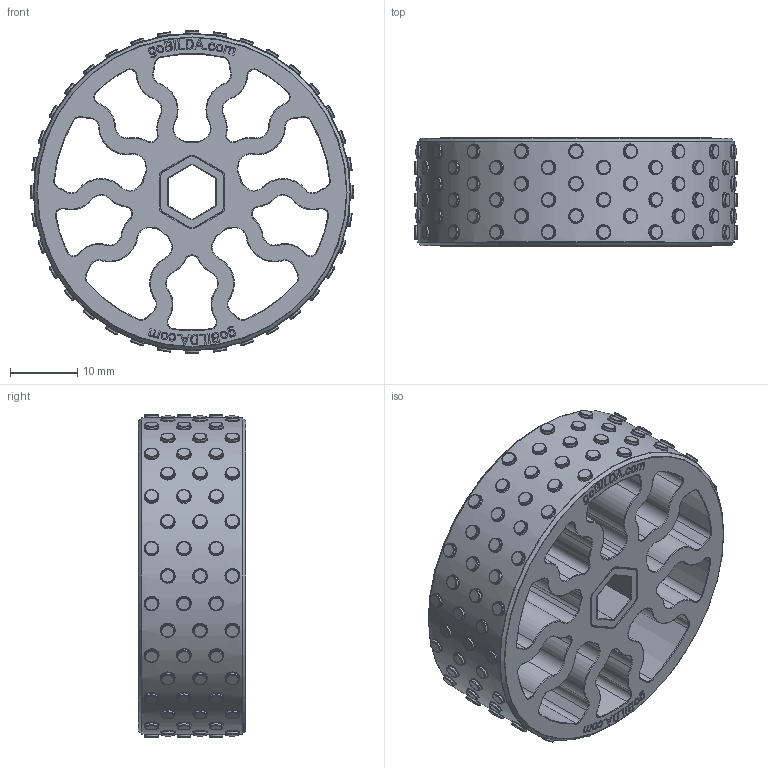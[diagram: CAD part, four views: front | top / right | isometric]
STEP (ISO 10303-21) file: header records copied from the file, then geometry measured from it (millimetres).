
FILE_DESCRIPTION(/* description */ (''),/* implementation_level */ '2;1');
FILE_NAME(/* name */ '3632-4008-0048.step',/* time_stamp */ '2026-08-25T15:34:25-05:00',/* author */ (''),/* organization */ (''),/* preprocessor_version */ 'ST-DEVELOPER v20.1',/* originating_system */ 'Autodesk Translation Framework v15.8.0.0',/* authorisation */ '');
FILE_SCHEMA (('AUTOMOTIVE_DESIGN { 1 0 10303 214 3 1 1 }'));
Length unit declared in the file: millimetre
Products named in the file (1): 3613-4008-0048
Bounding box: 48 x 16 x 48 mm (x, y, z)
Volume: 15050.1 mm3; surface area: 12102.9 mm2
Topology: 2 solids, 2 shells, 2437 faces, 6022 edges, 3718 vertices
Faces by surface type: bspline 1188, cylinder 477, plane 426, torus 296, cone 50
Full cylindrical faces by diameter (mm): 2 x32, 12 x2, 47 x1
Entity records: 132956 total; most frequent: CARTESIAN_POINT 82378, ORIENTED_EDGE 11948, DIRECTION 7900, EDGE_CURVE 5974, VERTEX_POINT 3718, AXIS2_PLACEMENT_3D 3040, EDGE_LOOP 2638, FACE_OUTER_BOUND 2437
